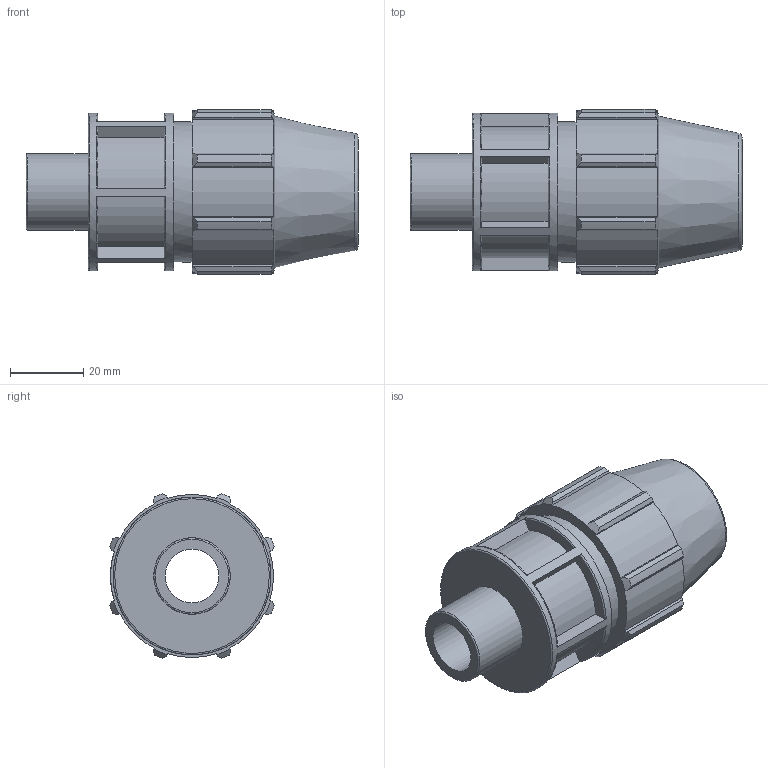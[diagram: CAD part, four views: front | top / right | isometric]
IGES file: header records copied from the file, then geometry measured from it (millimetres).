
Global section: file name: 0702M0005005.ipt; native system: Autodesk Inventor 2019; preprocessor: unknown; author: KIM; date: 20210826.124428; units: inch
Bounding box: 90.93 x 45.17 x 45.17 mm (x, y, z)
Volume: 69840.2 mm3; surface area: 21055.1 mm2
Topology: 1 solids, 1 shells, 117 faces, 321 edges, 216 vertices
Faces by surface type: plane 63, cylinder 25, revolution 19, cone 10
Full cylindrical faces by diameter (mm): 20.955 x1, 38.405 x1, 43.205 x1
